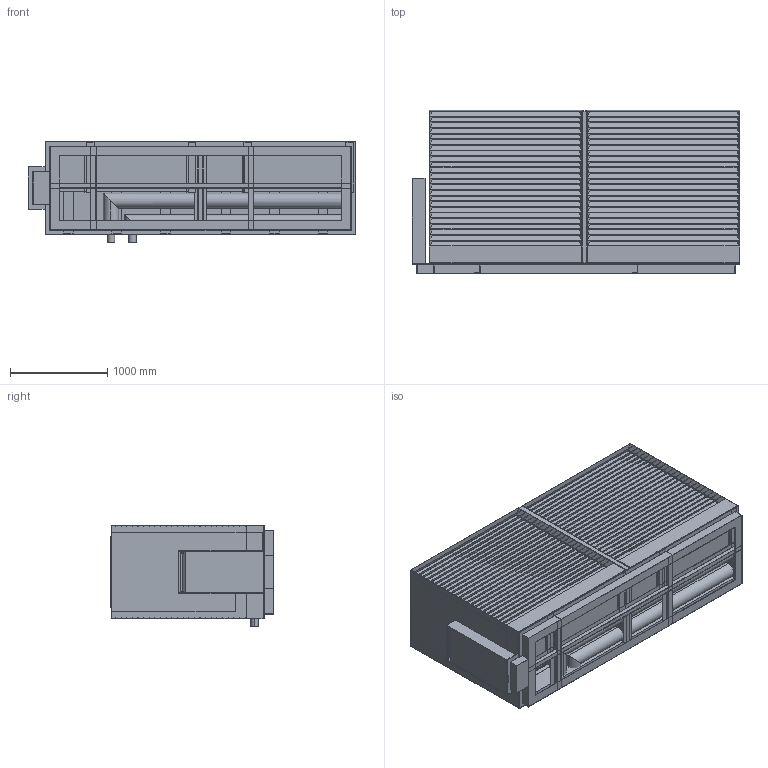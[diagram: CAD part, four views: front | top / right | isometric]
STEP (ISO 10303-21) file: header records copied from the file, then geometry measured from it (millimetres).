
FILE_DESCRIPTION (( 'STEP AP214' ), '1' );
FILE_NAME ('ADAPT MAX 10070.STEP', '2024-08-21T07:19:39', ( '' ), ( '' ), 'SwSTEP 2.0', 'SolidWorks 2021', '' );
FILE_SCHEMA (( 'AUTOMOTIVE_DESIGN' ));
Length unit declared in the file: millimetre
Products named in the file (4): adapt max - okvir; ADAPT MAX design_dvokapnica_vmesni clen; ADAPT MAX design_dvokapnica_175; ADAPT MAX 10070
Assembly tree (3 placements, depth 2):
  ADAPT MAX 10070
    adapt max - okvir
    ADAPT MAX design_dvokapnica_vmesni clen
    ADAPT MAX design_dvokapnica_175
Bounding box: 3375 x 1685 x 1040 mm (x, y, z)
Volume: 2061860333 mm3; surface area: 87595044.8 mm2
Topology: 72 solids, 134 shells, 1289 faces, 3047 edges, 2028 vertices
Faces by surface type: plane 1175, cylinder 110, torus 4
Entity records: 47062 total; most frequent: CARTESIAN_POINT 6491, ORIENTED_EDGE 6090, DIRECTION 5779, EDGE_CURVE 3047, VECTOR 2827, LINE 2827, VERTEX_POINT 2028, AXIS2_PLACEMENT_3D 1476
